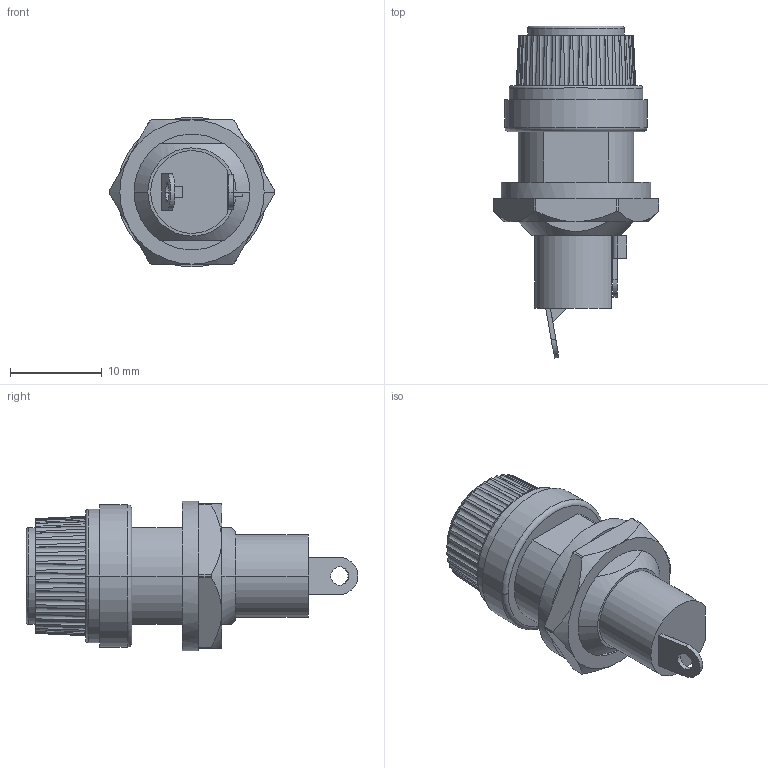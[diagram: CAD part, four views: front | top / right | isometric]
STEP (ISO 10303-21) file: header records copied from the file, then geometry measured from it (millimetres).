
FILE_DESCRIPTION (( 'STEP AP203' ), '1' );
FILE_NAME ('102.STEP', '2019-09-12T17:08:28', ( '' ), ( '' ), 'SwSTEP 2.0', 'SolidWorks 2012', '' );
FILE_SCHEMA (( 'CONFIG_CONTROL_DESIGN' ));
Length unit declared in the file: millimetre
Products named in the file (1): 102
Bounding box: 18 x 36.12 x 16.3 mm (x, y, z)
Volume: 3807.3 mm3; surface area: 1975.7 mm2
Topology: 1 solids, 1 shells, 241 faces, 653 edges, 423 vertices
Faces by surface type: cone 89, plane 89, cylinder 35, bspline 22, torus 6
Entity records: 8908 total; most frequent: CARTESIAN_POINT 2842, ORIENTED_EDGE 1306, DIRECTION 1221, EDGE_CURVE 653, AXIS2_PLACEMENT_3D 490, VERTEX_POINT 423, CIRCLE 270, EDGE_LOOP 258
